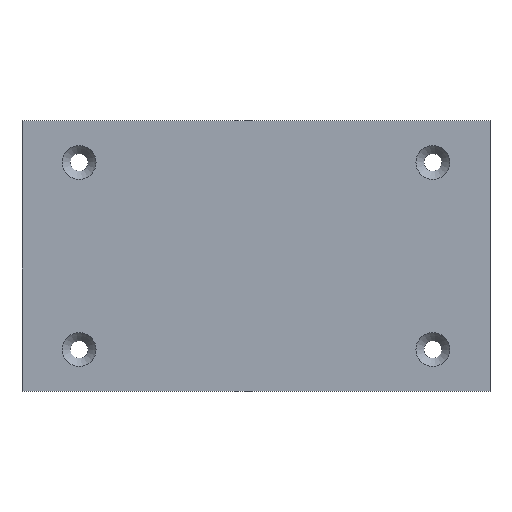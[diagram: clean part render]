
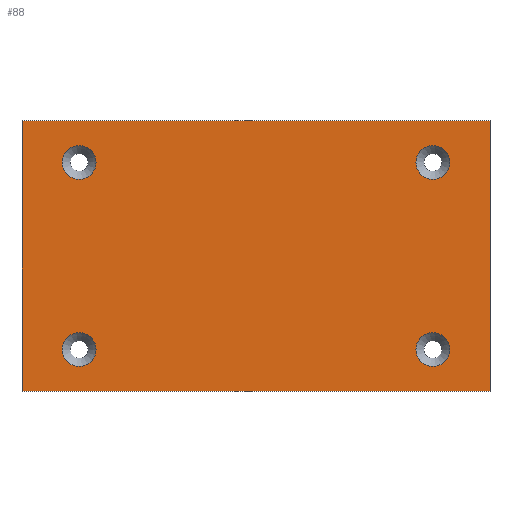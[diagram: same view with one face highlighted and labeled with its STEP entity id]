
A CAD part, top view. The second image highlights one B-rep face of the part: STEP entity #88.
In plain terms, the highlighted planar face has unit normal (0, 0, 1).
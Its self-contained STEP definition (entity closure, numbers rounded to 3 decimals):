
#24 = VERTEX_POINT('',#25);
#25 = CARTESIAN_POINT('',(0.,0.,4.));
#40 = VERTEX_POINT('',#41);
#41 = CARTESIAN_POINT('',(0.,52.,4.));
#47 = EDGE_CURVE('',#24,#40,#48,.T.);
#48 = LINE('',#49,#50);
#49 = CARTESIAN_POINT('',(0.,0.,4.));
#50 = VECTOR('',#51,1.);
#51 = DIRECTION('',(-0.,1.,0.));
#70 = EDGE_CURVE('',#24,#71,#73,.T.);
#71 = VERTEX_POINT('',#72);
#72 = CARTESIAN_POINT('',(90.,0.,4.));
#73 = LINE('',#74,#75);
#74 = CARTESIAN_POINT('',(0.,0.,4.));
#75 = VECTOR('',#76,1.);
#76 = DIRECTION('',(1.,0.,-0.));
#88 = ADVANCED_FACE('',(#89,#107,#118,#129,#140),#151,.T.);
#89 = FACE_BOUND('',#90,.T.);
#90 = EDGE_LOOP('',(#91,#92,#93,#101));
#91 = ORIENTED_EDGE('',*,*,#47,.F.);
#92 = ORIENTED_EDGE('',*,*,#70,.T.);
#93 = ORIENTED_EDGE('',*,*,#94,.T.);
#94 = EDGE_CURVE('',#71,#95,#97,.T.);
#95 = VERTEX_POINT('',#96);
#96 = CARTESIAN_POINT('',(90.,52.,4.));
#97 = LINE('',#98,#99);
#98 = CARTESIAN_POINT('',(90.,0.,4.));
#99 = VECTOR('',#100,1.);
#100 = DIRECTION('',(-0.,1.,0.));
#101 = ORIENTED_EDGE('',*,*,#102,.F.);
#102 = EDGE_CURVE('',#40,#95,#103,.T.);
#103 = LINE('',#104,#105);
#104 = CARTESIAN_POINT('',(0.,52.,4.));
#105 = VECTOR('',#106,1.);
#106 = DIRECTION('',(1.,0.,-0.));
#107 = FACE_BOUND('',#108,.T.);
#108 = EDGE_LOOP('',(#109));
#109 = ORIENTED_EDGE('',*,*,#110,.F.);
#110 = EDGE_CURVE('',#111,#111,#113,.T.);
#111 = VERTEX_POINT('',#112);
#112 = CARTESIAN_POINT('',(14.25,8.,4.));
#113 = CIRCLE('',#114,3.25);
#114 = AXIS2_PLACEMENT_3D('',#115,#116,#117);
#115 = CARTESIAN_POINT('',(11.,8.,4.));
#116 = DIRECTION('',(0.,0.,1.));
#117 = DIRECTION('',(1.,0.,-0.));
#118 = FACE_BOUND('',#119,.T.);
#119 = EDGE_LOOP('',(#120));
#120 = ORIENTED_EDGE('',*,*,#121,.F.);
#121 = EDGE_CURVE('',#122,#122,#124,.T.);
#122 = VERTEX_POINT('',#123);
#123 = CARTESIAN_POINT('',(82.25,8.,4.));
#124 = CIRCLE('',#125,3.25);
#125 = AXIS2_PLACEMENT_3D('',#126,#127,#128);
#126 = CARTESIAN_POINT('',(79.,8.,4.));
#127 = DIRECTION('',(0.,0.,1.));
#128 = DIRECTION('',(1.,0.,-0.));
#129 = FACE_BOUND('',#130,.T.);
#130 = EDGE_LOOP('',(#131));
#131 = ORIENTED_EDGE('',*,*,#132,.F.);
#132 = EDGE_CURVE('',#133,#133,#135,.T.);
#133 = VERTEX_POINT('',#134);
#134 = CARTESIAN_POINT('',(14.25,44.,4.));
#135 = CIRCLE('',#136,3.25);
#136 = AXIS2_PLACEMENT_3D('',#137,#138,#139);
#137 = CARTESIAN_POINT('',(11.,44.,4.));
#138 = DIRECTION('',(0.,0.,1.));
#139 = DIRECTION('',(1.,0.,-0.));
#140 = FACE_BOUND('',#141,.T.);
#141 = EDGE_LOOP('',(#142));
#142 = ORIENTED_EDGE('',*,*,#143,.F.);
#143 = EDGE_CURVE('',#144,#144,#146,.T.);
#144 = VERTEX_POINT('',#145);
#145 = CARTESIAN_POINT('',(82.25,44.,4.));
#146 = CIRCLE('',#147,3.25);
#147 = AXIS2_PLACEMENT_3D('',#148,#149,#150);
#148 = CARTESIAN_POINT('',(79.,44.,4.));
#149 = DIRECTION('',(0.,0.,1.));
#150 = DIRECTION('',(1.,0.,-0.));
#151 = PLANE('',#152);
#152 = AXIS2_PLACEMENT_3D('',#153,#154,#155);
#153 = CARTESIAN_POINT('',(0.,0.,4.));
#154 = DIRECTION('',(0.,0.,1.));
#155 = DIRECTION('',(1.,0.,-0.));
